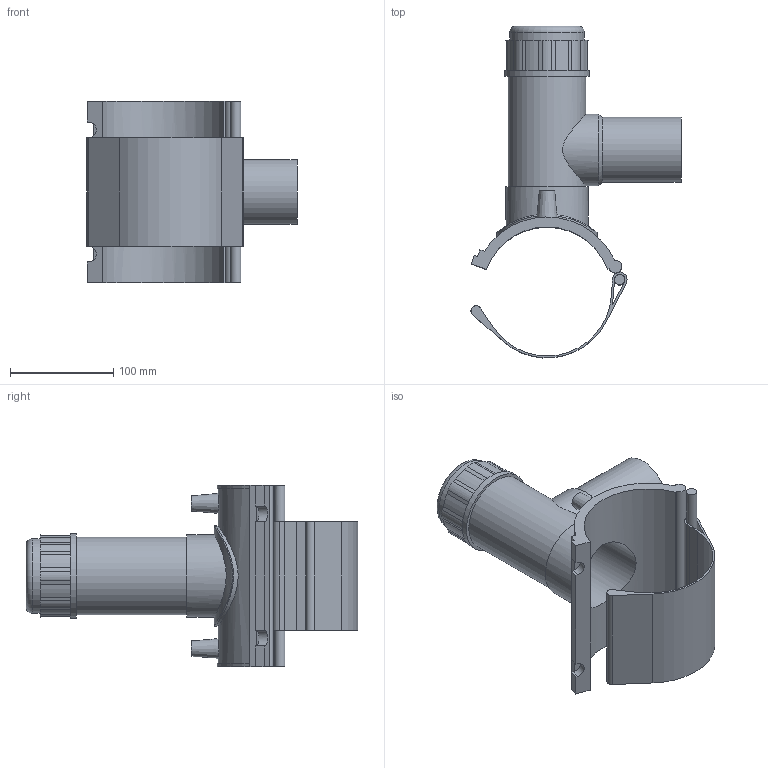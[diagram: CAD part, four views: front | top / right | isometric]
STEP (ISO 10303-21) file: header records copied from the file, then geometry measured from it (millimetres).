
FILE_DESCRIPTION(/* description */ ('PLASSON TAPPING TEE SADDLE 125mm x 63mm'),/* implementation_level */ '2;1');
FILE_NAME(/* name */ 'C:\Dropbox\KIMPROJECTS-Inventor 2019\99-16-3568-Processing\ElectroFusion Fittings\491304\491304125063.stp',/* time_stamp */ '2023-03-23T11:28:33+02:00',/* author */ ('KIM'),/* organization */ (''),/* preprocessor_version */ 'ST-DEVELOPER v17.2',/* originating_system */ 'Autodesk Inventor 2019',/* authorisation */ '');
FILE_SCHEMA (('AUTOMOTIVE_DESIGN { 1 0 10303 214 3 1 1 }'));
Length unit declared in the file: millimetre
Products named in the file (1): 491304125063
Bounding box: 203.75 x 321.76 x 176 mm (x, y, z)
Volume: 810969.2 mm3; surface area: 241702.4 mm2
Topology: 2 solids, 2 shells, 108 faces, 282 edges, 193 vertices
Faces by surface type: plane 59, cylinder 44, cone 3, bspline 1, torus 1
Full cylindrical faces by diameter (mm): 4 x2, 10 x3, 50.4 x1, 63 x1, 69.3 x1, 69.6 x1, 72.45 x1, 75.6 x1, 79.6 x1, 81.9 x1, 97.65 x1
Entity records: 3971 total; most frequent: CARTESIAN_POINT 1160, DIRECTION 590, ORIENTED_EDGE 566, EDGE_CURVE 283, AXIS2_PLACEMENT_3D 216, VERTEX_POINT 195, LINE 158, VECTOR 158
